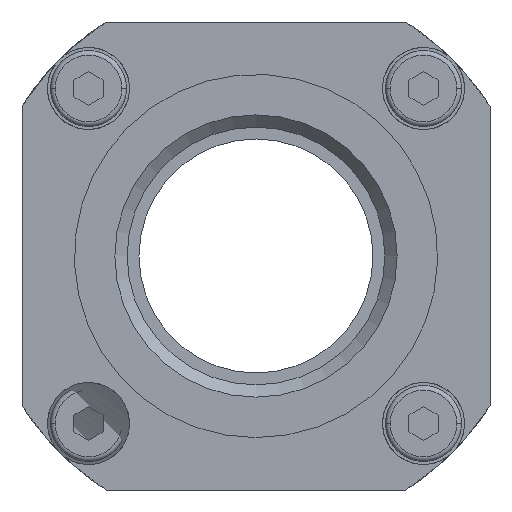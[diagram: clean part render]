
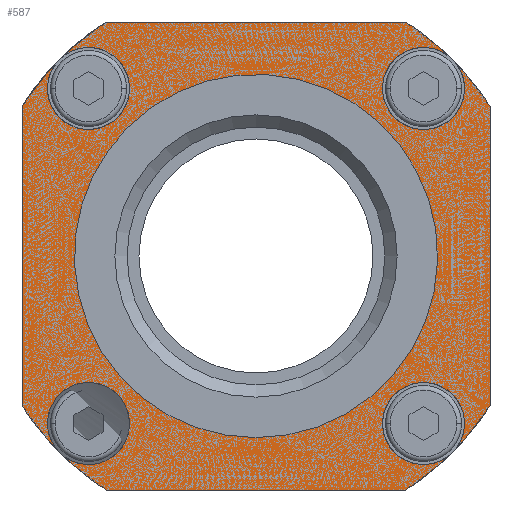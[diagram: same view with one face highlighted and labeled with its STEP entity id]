
A CAD part, front view. The second image highlights one B-rep face of the part: STEP entity #587.
In plain terms, the highlighted planar face has unit normal (0, 1, 0).
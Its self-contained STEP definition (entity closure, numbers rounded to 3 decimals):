
#229=PLANE('',#4021);
#361=FACE_BOUND('',#1110,.T.);
#362=FACE_BOUND('',#1111,.T.);
#363=FACE_BOUND('',#1112,.T.);
#364=FACE_BOUND('',#1113,.T.);
#365=FACE_BOUND('',#1114,.T.);
#366=FACE_BOUND('',#1115,.T.);
#587=ADVANCED_FACE('',(#361,#362,#363,#364,#365,#366),#229,.F.);
#1110=EDGE_LOOP('',(#2158));
#1111=EDGE_LOOP('',(#2159));
#1112=EDGE_LOOP('',(#2160));
#1113=EDGE_LOOP('',(#2161));
#1114=EDGE_LOOP('',(#2162));
#1115=EDGE_LOOP('',(#2163,#2164,#2165,#2166,#2167,#2168,#2169,#2170));
#1426=LINE('',#6015,#1660);
#1427=LINE('',#6016,#1661);
#1428=LINE('',#6020,#1662);
#1429=LINE('',#6024,#1663);
#1660=VECTOR('',#4772,1.);
#1661=VECTOR('',#4773,1.);
#1662=VECTOR('',#4776,1.);
#1663=VECTOR('',#4779,1.);
#2158=ORIENTED_EDGE('',*,*,#3269,.F.);
#2159=ORIENTED_EDGE('',*,*,#3270,.F.);
#2160=ORIENTED_EDGE('',*,*,#3271,.F.);
#2161=ORIENTED_EDGE('',*,*,#3272,.F.);
#2162=ORIENTED_EDGE('',*,*,#3273,.T.);
#2163=ORIENTED_EDGE('',*,*,#3266,.T.);
#2164=ORIENTED_EDGE('',*,*,#3274,.T.);
#2165=ORIENTED_EDGE('',*,*,#3259,.T.);
#2166=ORIENTED_EDGE('',*,*,#3275,.T.);
#2167=ORIENTED_EDGE('',*,*,#3276,.T.);
#2168=ORIENTED_EDGE('',*,*,#3277,.F.);
#2169=ORIENTED_EDGE('',*,*,#3278,.T.);
#2170=ORIENTED_EDGE('',*,*,#3279,.F.);
#2871=VERTEX_POINT('',#5984);
#2872=VERTEX_POINT('',#5985);
#2878=VERTEX_POINT('',#5998);
#2879=VERTEX_POINT('',#6000);
#2881=VERTEX_POINT('',#6006);
#2882=VERTEX_POINT('',#6008);
#2883=VERTEX_POINT('',#6010);
#2884=VERTEX_POINT('',#6012);
#2885=VERTEX_POINT('',#6014);
#2886=VERTEX_POINT('',#6017);
#2887=VERTEX_POINT('',#6019);
#2888=VERTEX_POINT('',#6021);
#2889=VERTEX_POINT('',#6023);
#3259=EDGE_CURVE('',#2871,#2872,#3690,.T.);
#3266=EDGE_CURVE('',#2879,#2878,#3694,.T.);
#3269=EDGE_CURVE('',#2881,#2881,#3696,.T.);
#3270=EDGE_CURVE('',#2882,#2882,#3697,.T.);
#3271=EDGE_CURVE('',#2883,#2883,#3698,.T.);
#3272=EDGE_CURVE('',#2884,#2884,#3699,.T.);
#3273=EDGE_CURVE('',#2885,#2885,#3700,.T.);
#3274=EDGE_CURVE('',#2878,#2871,#1426,.T.);
#3275=EDGE_CURVE('',#2872,#2886,#1427,.T.);
#3276=EDGE_CURVE('',#2886,#2887,#3701,.T.);
#3277=EDGE_CURVE('',#2888,#2887,#1428,.T.);
#3278=EDGE_CURVE('',#2888,#2889,#3702,.T.);
#3279=EDGE_CURVE('',#2879,#2889,#1429,.T.);
#3690=CIRCLE('',#4006,47.5);
#3694=CIRCLE('',#4011,47.5);
#3696=CIRCLE('',#4014,4.);
#3697=CIRCLE('',#4015,4.);
#3698=CIRCLE('',#4016,4.);
#3699=CIRCLE('',#4017,4.);
#3700=CIRCLE('',#4018,30.706);
#3701=CIRCLE('',#4019,47.5);
#3702=CIRCLE('',#4020,47.5);
#4006=AXIS2_PLACEMENT_3D('',#5983,#4742,#4743);
#4011=AXIS2_PLACEMENT_3D('',#5999,#4755,#4756);
#4014=AXIS2_PLACEMENT_3D('',#6005,#4762,#4763);
#4015=AXIS2_PLACEMENT_3D('',#6007,#4764,#4765);
#4016=AXIS2_PLACEMENT_3D('',#6009,#4766,#4767);
#4017=AXIS2_PLACEMENT_3D('',#6011,#4768,#4769);
#4018=AXIS2_PLACEMENT_3D('',#6013,#4770,#4771);
#4019=AXIS2_PLACEMENT_3D('',#6018,#4774,#4775);
#4020=AXIS2_PLACEMENT_3D('',#6022,#4777,#4778);
#4021=AXIS2_PLACEMENT_3D('',#6025,#4780,#4781);
#4742=DIRECTION('',(0.,1.,0.));
#4743=DIRECTION('',(0.,0.,-1.));
#4755=DIRECTION('',(0.,1.,0.));
#4756=DIRECTION('',(0.,0.,-1.));
#4762=DIRECTION('',(0.,1.,0.));
#4763=DIRECTION('',(0.,0.,-1.));
#4764=DIRECTION('',(0.,1.,0.));
#4765=DIRECTION('',(0.,0.,-1.));
#4766=DIRECTION('',(0.,1.,0.));
#4767=DIRECTION('',(0.,0.,-1.));
#4768=DIRECTION('',(0.,1.,0.));
#4769=DIRECTION('',(0.,0.,-1.));
#4770=DIRECTION('',(0.,-1.,0.));
#4771=DIRECTION('',(0.,0.,-1.));
#4772=DIRECTION('',(1.,0.,0.));
#4773=DIRECTION('',(0.,0.,-1.));
#4774=DIRECTION('',(0.,1.,0.));
#4775=DIRECTION('',(0.,0.,-1.));
#4776=DIRECTION('',(1.,0.,0.));
#4777=DIRECTION('',(0.,1.,0.));
#4778=DIRECTION('',(0.,0.,-1.));
#4779=DIRECTION('',(0.,0.,-1.));
#4780=DIRECTION('',(0.,-1.,0.));
#4781=DIRECTION('',(0.,0.,-1.));
#5983=CARTESIAN_POINT('',(0.,-57.5,0.));
#5984=CARTESIAN_POINT('',(25.617,-57.5,40.));
#5985=CARTESIAN_POINT('',(40.,-57.5,25.617));
#5998=CARTESIAN_POINT('',(-25.617,-57.5,40.));
#5999=CARTESIAN_POINT('',(0.,-57.5,0.));
#6000=CARTESIAN_POINT('',(-40.,-57.5,25.617));
#6005=CARTESIAN_POINT('',(-28.638,-57.5,28.638));
#6006=CARTESIAN_POINT('',(-28.638,-57.5,24.638));
#6007=CARTESIAN_POINT('',(-28.638,-57.5,-28.638));
#6008=CARTESIAN_POINT('',(-28.638,-57.5,-32.638));
#6009=CARTESIAN_POINT('',(28.638,-57.5,-28.638));
#6010=CARTESIAN_POINT('',(28.638,-57.5,-32.638));
#6011=CARTESIAN_POINT('',(28.638,-57.5,28.638));
#6012=CARTESIAN_POINT('',(28.638,-57.5,24.638));
#6013=CARTESIAN_POINT('',(0.,-57.5,0.));
#6014=CARTESIAN_POINT('',(0.,-57.5,-30.706));
#6015=CARTESIAN_POINT('',(0.,-57.5,40.));
#6016=CARTESIAN_POINT('',(40.,-57.5,0.));
#6017=CARTESIAN_POINT('',(40.,-57.5,-25.617));
#6018=CARTESIAN_POINT('',(0.,-57.5,0.));
#6019=CARTESIAN_POINT('',(25.617,-57.5,-40.));
#6020=CARTESIAN_POINT('',(0.,-57.5,-40.));
#6021=CARTESIAN_POINT('',(-25.617,-57.5,-40.));
#6022=CARTESIAN_POINT('',(0.,-57.5,0.));
#6023=CARTESIAN_POINT('',(-40.,-57.5,-25.617));
#6024=CARTESIAN_POINT('',(-40.,-57.5,0.));
#6025=CARTESIAN_POINT('',(0.,-57.5,0.));
